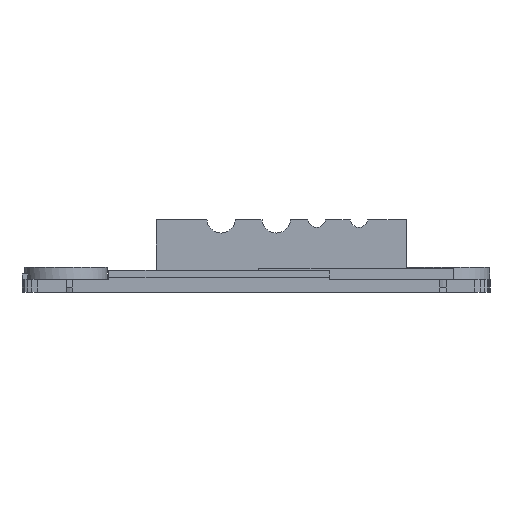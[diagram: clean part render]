
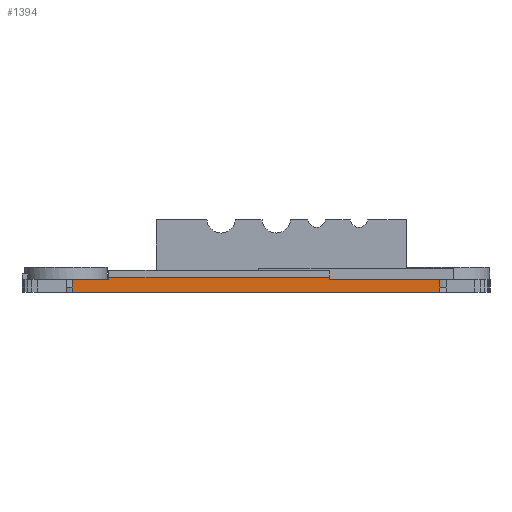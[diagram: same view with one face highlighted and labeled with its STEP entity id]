
A CAD part, left-side view. The second image highlights one B-rep face of the part: STEP entity #1394.
In plain terms, the highlighted planar face has unit normal (-1, 0, 0).
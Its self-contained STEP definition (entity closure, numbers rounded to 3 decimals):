
#1394 = ADVANCED_FACE('',(#1395),#1409,.F.);
#1395 = FACE_BOUND('',#1396,.T.);
#1396 = EDGE_LOOP('',(#1397,#1420,#1436,#1452,#1480,#1508,#1536,#1552));
#1397 = ORIENTED_EDGE('',*,*,#1398,.F.);
#1398 = EDGE_CURVE('',#1399,#1401,#1403,.T.);
#1399 = VERTEX_POINT('',#1400);
#1400 = CARTESIAN_POINT('',(2.55,8.,0.));
#1401 = VERTEX_POINT('',#1402);
#1402 = CARTESIAN_POINT('',(2.55,48.,0.));
#1403 = SURFACE_CURVE('',#1404,(#1408),.PCURVE_S1.);
#1404 = LINE('',#1405,#1406);
#1405 = CARTESIAN_POINT('',(2.55,8.,0.));
#1406 = VECTOR('',#1407,1.);
#1407 = DIRECTION('',(0.,1.,-0.));
#1408 = PCURVE('',#1409,#1414);
#1409 = PLANE('',#1410);
#1410 = AXIS2_PLACEMENT_3D('',#1411,#1412,#1413);
#1411 = CARTESIAN_POINT('',(2.55,8.,0.));
#1412 = DIRECTION('',(1.,-0.,-0.));
#1413 = DIRECTION('',(0.,-1.,0.));
#1414 = DEFINITIONAL_REPRESENTATION('',(#1415),#1419);
#1415 = LINE('',#1416,#1417);
#1416 = CARTESIAN_POINT('',(-0.,0.));
#1417 = VECTOR('',#1418,1.);
#1418 = DIRECTION('',(-1.,0.));
#1419 = ( GEOMETRIC_REPRESENTATION_CONTEXT(2) 
PARAMETRIC_REPRESENTATION_CONTEXT() REPRESENTATION_CONTEXT('2D SPACE',''
  ) );
#1420 = ORIENTED_EDGE('',*,*,#1421,.T.);
#1421 = EDGE_CURVE('',#1399,#1422,#1424,.T.);
#1422 = VERTEX_POINT('',#1423);
#1423 = CARTESIAN_POINT('',(2.55,8.,1.4));
#1424 = SURFACE_CURVE('',#1425,(#1429),.PCURVE_S1.);
#1425 = LINE('',#1426,#1427);
#1426 = CARTESIAN_POINT('',(2.55,8.,0.));
#1427 = VECTOR('',#1428,1.);
#1428 = DIRECTION('',(-0.,-0.,1.));
#1429 = PCURVE('',#1409,#1430);
#1430 = DEFINITIONAL_REPRESENTATION('',(#1431),#1435);
#1431 = LINE('',#1432,#1433);
#1432 = CARTESIAN_POINT('',(-0.,0.));
#1433 = VECTOR('',#1434,1.);
#1434 = DIRECTION('',(-0.,-1.));
#1435 = ( GEOMETRIC_REPRESENTATION_CONTEXT(2) 
PARAMETRIC_REPRESENTATION_CONTEXT() REPRESENTATION_CONTEXT('2D SPACE',''
  ) );
#1436 = ORIENTED_EDGE('',*,*,#1437,.T.);
#1437 = EDGE_CURVE('',#1422,#1438,#1440,.T.);
#1438 = VERTEX_POINT('',#1439);
#1439 = CARTESIAN_POINT('',(2.55,20.,1.4));
#1440 = SURFACE_CURVE('',#1441,(#1445),.PCURVE_S1.);
#1441 = LINE('',#1442,#1443);
#1442 = CARTESIAN_POINT('',(2.55,8.,1.4));
#1443 = VECTOR('',#1444,1.);
#1444 = DIRECTION('',(0.,1.,-0.));
#1445 = PCURVE('',#1409,#1446);
#1446 = DEFINITIONAL_REPRESENTATION('',(#1447),#1451);
#1447 = LINE('',#1448,#1449);
#1448 = CARTESIAN_POINT('',(-0.,-1.4));
#1449 = VECTOR('',#1450,1.);
#1450 = DIRECTION('',(-1.,0.));
#1451 = ( GEOMETRIC_REPRESENTATION_CONTEXT(2) 
PARAMETRIC_REPRESENTATION_CONTEXT() REPRESENTATION_CONTEXT('2D SPACE',''
  ) );
#1452 = ORIENTED_EDGE('',*,*,#1453,.T.);
#1453 = EDGE_CURVE('',#1438,#1454,#1456,.T.);
#1454 = VERTEX_POINT('',#1455);
#1455 = CARTESIAN_POINT('',(2.55,20.,1.65));
#1456 = SURFACE_CURVE('',#1457,(#1461,#1468),.PCURVE_S1.);
#1457 = LINE('',#1458,#1459);
#1458 = CARTESIAN_POINT('',(2.55,20.,1.39));
#1459 = VECTOR('',#1460,1.);
#1460 = DIRECTION('',(-0.,-0.,1.));
#1461 = PCURVE('',#1409,#1462);
#1462 = DEFINITIONAL_REPRESENTATION('',(#1463),#1467);
#1463 = LINE('',#1464,#1465);
#1464 = CARTESIAN_POINT('',(-12.,-1.39));
#1465 = VECTOR('',#1466,1.);
#1466 = DIRECTION('',(-0.,-1.));
#1467 = ( GEOMETRIC_REPRESENTATION_CONTEXT(2) 
PARAMETRIC_REPRESENTATION_CONTEXT() REPRESENTATION_CONTEXT('2D SPACE',''
  ) );
#1468 = PCURVE('',#1469,#1474);
#1469 = PLANE('',#1470);
#1470 = AXIS2_PLACEMENT_3D('',#1471,#1472,#1473);
#1471 = CARTESIAN_POINT('',(2.55,20.,1.39));
#1472 = DIRECTION('',(-0.,-1.,-0.));
#1473 = DIRECTION('',(0.,0.,-1.));
#1474 = DEFINITIONAL_REPRESENTATION('',(#1475),#1479);
#1475 = LINE('',#1476,#1477);
#1476 = CARTESIAN_POINT('',(-0.,0.));
#1477 = VECTOR('',#1478,1.);
#1478 = DIRECTION('',(-1.,0.));
#1479 = ( GEOMETRIC_REPRESENTATION_CONTEXT(2) 
PARAMETRIC_REPRESENTATION_CONTEXT() REPRESENTATION_CONTEXT('2D SPACE',''
  ) );
#1480 = ORIENTED_EDGE('',*,*,#1481,.T.);
#1481 = EDGE_CURVE('',#1454,#1482,#1484,.T.);
#1482 = VERTEX_POINT('',#1483);
#1483 = CARTESIAN_POINT('',(2.55,44.,1.65));
#1484 = SURFACE_CURVE('',#1485,(#1489,#1496),.PCURVE_S1.);
#1485 = LINE('',#1486,#1487);
#1486 = CARTESIAN_POINT('',(2.55,44.,1.65));
#1487 = VECTOR('',#1488,1.);
#1488 = DIRECTION('',(-0.,1.,-0.));
#1489 = PCURVE('',#1409,#1490);
#1490 = DEFINITIONAL_REPRESENTATION('',(#1491),#1495);
#1491 = LINE('',#1492,#1493);
#1492 = CARTESIAN_POINT('',(-36.,-1.65));
#1493 = VECTOR('',#1494,1.);
#1494 = DIRECTION('',(-1.,-0.));
#1495 = ( GEOMETRIC_REPRESENTATION_CONTEXT(2) 
PARAMETRIC_REPRESENTATION_CONTEXT() REPRESENTATION_CONTEXT('2D SPACE',''
  ) );
#1496 = PCURVE('',#1497,#1502);
#1497 = PLANE('',#1498);
#1498 = AXIS2_PLACEMENT_3D('',#1499,#1500,#1501);
#1499 = CARTESIAN_POINT('',(1.7,44.,1.65));
#1500 = DIRECTION('',(-0.,-0.,1.));
#1501 = DIRECTION('',(-1.,0.,0.));
#1502 = DEFINITIONAL_REPRESENTATION('',(#1503),#1507);
#1503 = LINE('',#1504,#1505);
#1504 = CARTESIAN_POINT('',(-0.85,-0.));
#1505 = VECTOR('',#1506,1.);
#1506 = DIRECTION('',(-0.,-1.));
#1507 = ( GEOMETRIC_REPRESENTATION_CONTEXT(2) 
PARAMETRIC_REPRESENTATION_CONTEXT() REPRESENTATION_CONTEXT('2D SPACE',''
  ) );
#1508 = ORIENTED_EDGE('',*,*,#1509,.F.);
#1509 = EDGE_CURVE('',#1510,#1482,#1512,.T.);
#1510 = VERTEX_POINT('',#1511);
#1511 = CARTESIAN_POINT('',(2.55,44.,1.4));
#1512 = SURFACE_CURVE('',#1513,(#1517,#1524),.PCURVE_S1.);
#1513 = LINE('',#1514,#1515);
#1514 = CARTESIAN_POINT('',(2.55,44.,1.39));
#1515 = VECTOR('',#1516,1.);
#1516 = DIRECTION('',(-0.,-0.,1.));
#1517 = PCURVE('',#1409,#1518);
#1518 = DEFINITIONAL_REPRESENTATION('',(#1519),#1523);
#1519 = LINE('',#1520,#1521);
#1520 = CARTESIAN_POINT('',(-36.,-1.39));
#1521 = VECTOR('',#1522,1.);
#1522 = DIRECTION('',(-0.,-1.));
#1523 = ( GEOMETRIC_REPRESENTATION_CONTEXT(2) 
PARAMETRIC_REPRESENTATION_CONTEXT() REPRESENTATION_CONTEXT('2D SPACE',''
  ) );
#1524 = PCURVE('',#1525,#1530);
#1525 = PLANE('',#1526);
#1526 = AXIS2_PLACEMENT_3D('',#1527,#1528,#1529);
#1527 = CARTESIAN_POINT('',(2.55,44.,1.39));
#1528 = DIRECTION('',(-0.,-1.,-0.));
#1529 = DIRECTION('',(0.,0.,-1.));
#1530 = DEFINITIONAL_REPRESENTATION('',(#1531),#1535);
#1531 = LINE('',#1532,#1533);
#1532 = CARTESIAN_POINT('',(-0.,0.));
#1533 = VECTOR('',#1534,1.);
#1534 = DIRECTION('',(-1.,0.));
#1535 = ( GEOMETRIC_REPRESENTATION_CONTEXT(2) 
PARAMETRIC_REPRESENTATION_CONTEXT() REPRESENTATION_CONTEXT('2D SPACE',''
  ) );
#1536 = ORIENTED_EDGE('',*,*,#1537,.T.);
#1537 = EDGE_CURVE('',#1510,#1538,#1540,.T.);
#1538 = VERTEX_POINT('',#1539);
#1539 = CARTESIAN_POINT('',(2.55,48.,1.4));
#1540 = SURFACE_CURVE('',#1541,(#1545),.PCURVE_S1.);
#1541 = LINE('',#1542,#1543);
#1542 = CARTESIAN_POINT('',(2.55,8.,1.4));
#1543 = VECTOR('',#1544,1.);
#1544 = DIRECTION('',(0.,1.,-0.));
#1545 = PCURVE('',#1409,#1546);
#1546 = DEFINITIONAL_REPRESENTATION('',(#1547),#1551);
#1547 = LINE('',#1548,#1549);
#1548 = CARTESIAN_POINT('',(-0.,-1.4));
#1549 = VECTOR('',#1550,1.);
#1550 = DIRECTION('',(-1.,0.));
#1551 = ( GEOMETRIC_REPRESENTATION_CONTEXT(2) 
PARAMETRIC_REPRESENTATION_CONTEXT() REPRESENTATION_CONTEXT('2D SPACE',''
  ) );
#1552 = ORIENTED_EDGE('',*,*,#1553,.F.);
#1553 = EDGE_CURVE('',#1401,#1538,#1554,.T.);
#1554 = SURFACE_CURVE('',#1555,(#1559),.PCURVE_S1.);
#1555 = LINE('',#1556,#1557);
#1556 = CARTESIAN_POINT('',(2.55,48.,0.));
#1557 = VECTOR('',#1558,1.);
#1558 = DIRECTION('',(-0.,-0.,1.));
#1559 = PCURVE('',#1409,#1560);
#1560 = DEFINITIONAL_REPRESENTATION('',(#1561),#1565);
#1561 = LINE('',#1562,#1563);
#1562 = CARTESIAN_POINT('',(-40.,0.));
#1563 = VECTOR('',#1564,1.);
#1564 = DIRECTION('',(-0.,-1.));
#1565 = ( GEOMETRIC_REPRESENTATION_CONTEXT(2) 
PARAMETRIC_REPRESENTATION_CONTEXT() REPRESENTATION_CONTEXT('2D SPACE',''
  ) );
